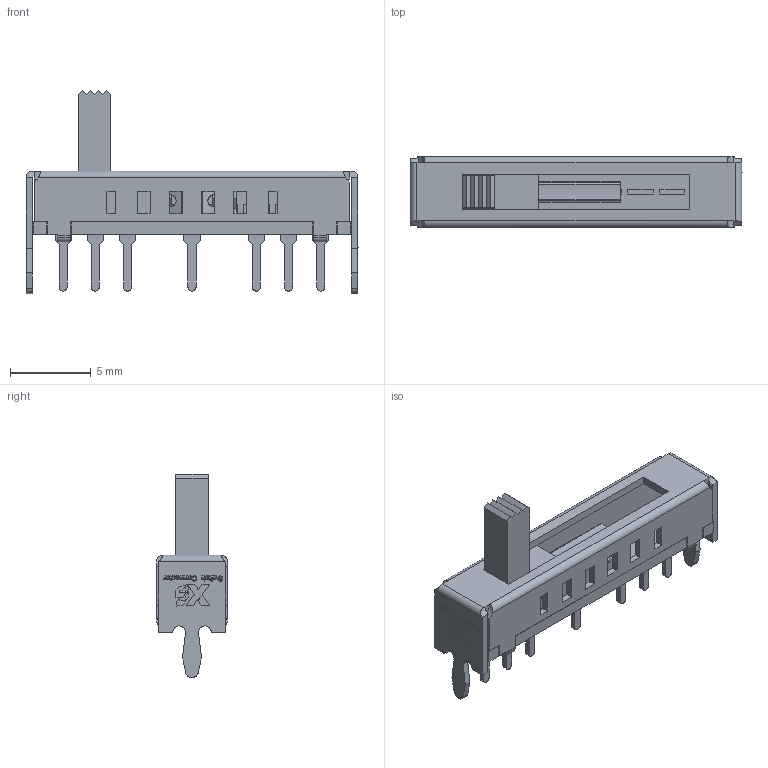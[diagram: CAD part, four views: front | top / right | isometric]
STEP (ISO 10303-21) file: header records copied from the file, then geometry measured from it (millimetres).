
FILE_DESCRIPTION(/* description */ (''),/* implementation_level */ '2;1');
FILE_NAME(/* name */ 'XB0ACD~1',/* time_stamp */ '2024-01-16T18:15:47+08:00',/* author */ (''),/* organization */ (''),/* preprocessor_version */ 'ST-DEVELOPER v16.5',/* originating_system */ '',/* authorisation */ '');
FILE_SCHEMA (('AUTOMOTIVE_DESIGN'));
Length unit declared in the file: millimetre
Products named in the file (1): Document
Bounding box: 20.6 x 4.4 x 12.6 mm (x, y, z)
Volume: 223.5 mm3; surface area: 1070.7 mm2
Topology: 50 solids, 50 shells, 1245 faces, 3249 edges, 2149 vertices
Faces by surface type: bspline 684, plane 561
Entity records: 42421 total; most frequent: CARTESIAN_POINT 20792, ORIENTED_EDGE 6494, EDGE_CURVE 3247, B_SPLINE_CURVE_WITH_KNOTS 2991, VERTEX_POINT 2149, EDGE_LOOP 1340, ADVANCED_FACE 1245, FACE_OUTER_BOUND 1245
